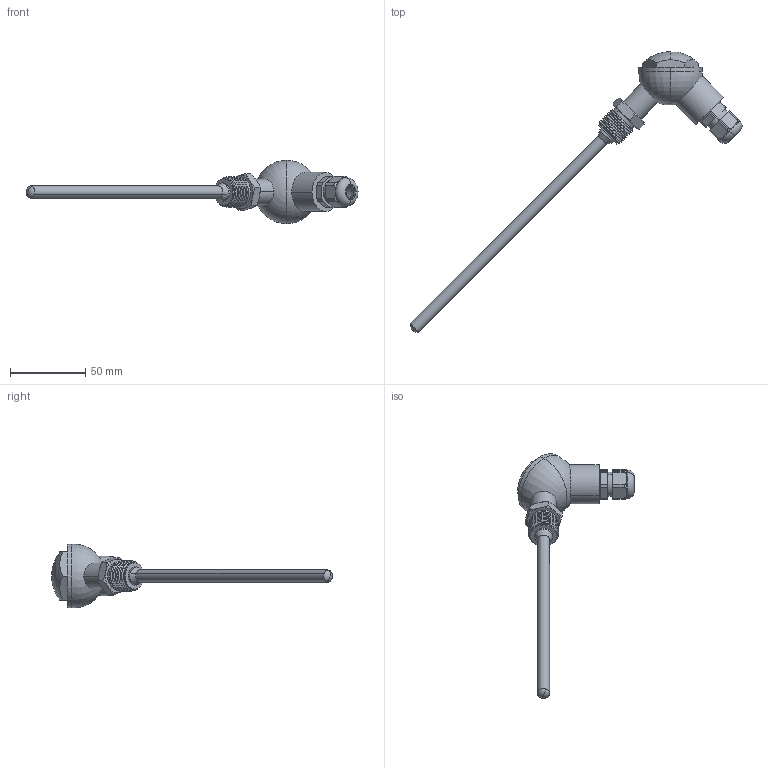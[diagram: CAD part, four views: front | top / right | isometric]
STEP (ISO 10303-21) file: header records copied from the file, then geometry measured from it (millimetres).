
FILE_DESCRIPTION (( 'STEP AP214' ), '1' );
FILE_NAME ('3D Ìîäåëü ÄÒÑ105.STEP', '2016-01-20T12:59:33', ( '' ), ( '' ), 'SwSTEP 2.0', 'SolidWorks 2013', '' );
FILE_SCHEMA (( 'AUTOMOTIVE_DESIGN' ));
Length unit declared in the file: millimetre
Products named in the file (5): Ãåðìîââîä PG9; ÄÒÑ èçìåðèòåëü; ÄÒÑ âèíò-ãàéêà; ÄÒÑ ãîëîâêà_ìàëàÿ; 3D Ìîäåëü ÄÒÑ105
Assembly tree (4 placements, depth 2):
  3D Ìîäåëü ÄÒÑ105
    ÄÒÑ ãîëîâêà_ìàëàÿ
    ÄÒÑ âèíò-ãàéêà
    ÄÒÑ èçìåðèòåëü
    Ãåðìîââîä PG9
Bounding box: 220.38 x 186.33 x 42 mm (x, y, z)
Volume: 61419 mm3; surface area: 21340.5 mm2
Topology: 4 solids, 4 shells, 144 faces, 343 edges, 216 vertices
Faces by surface type: cylinder 63, plane 42, cone 18, torus 17, bspline 2, sphere 2
Entity records: 6008 total; most frequent: CARTESIAN_POINT 2559, DIRECTION 682, ORIENTED_EDGE 678, EDGE_CURVE 339, AXIS2_PLACEMENT_3D 283, VERTEX_POINT 216, EDGE_LOOP 161, ADVANCED_FACE 144
